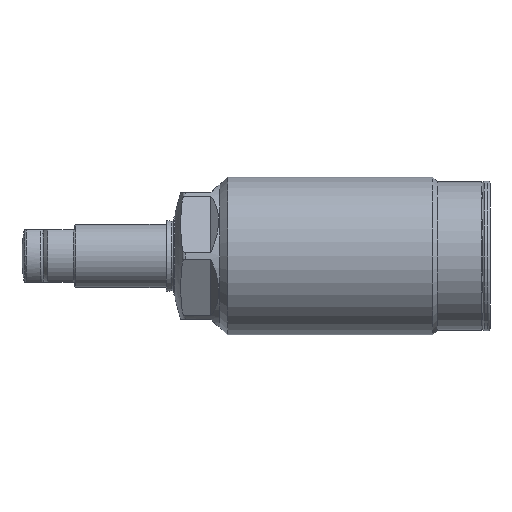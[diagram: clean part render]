
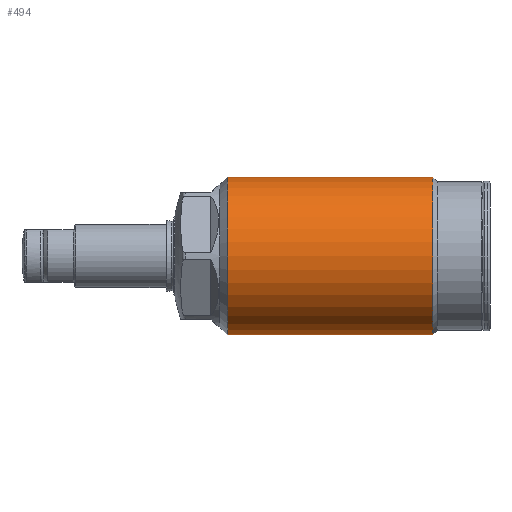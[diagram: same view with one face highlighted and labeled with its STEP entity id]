
A CAD part, left-side view. The second image highlights one B-rep face of the part: STEP entity #494.
In plain terms, the highlighted cylindrical face has radius 15 mm (diameter 30 mm), a partial arc.
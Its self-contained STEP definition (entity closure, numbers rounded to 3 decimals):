
#494=ADVANCED_FACE('',(#694),#570,.T.);
#570=CYLINDRICAL_SURFACE('',#2992,15.);
#694=FACE_OUTER_BOUND('',#869,.T.);
#869=EDGE_LOOP('',(#1660,#1661,#1662,#1663));
#979=LINE('',#4641,#1074);
#980=LINE('',#4645,#1075);
#1074=VECTOR('',#3604,1.);
#1075=VECTOR('',#3607,1.);
#1660=ORIENTED_EDGE('',*,*,#2302,.T.);
#1661=ORIENTED_EDGE('',*,*,#2381,.T.);
#1662=ORIENTED_EDGE('',*,*,#2304,.F.);
#1663=ORIENTED_EDGE('',*,*,#2380,.F.);
#2002=VERTEX_POINT('',#4636);
#2003=VERTEX_POINT('',#4638);
#2004=VERTEX_POINT('',#4642);
#2005=VERTEX_POINT('',#4644);
#2302=EDGE_CURVE('',#2004,#2002,#979,.T.);
#2304=EDGE_CURVE('',#2005,#2003,#980,.T.);
#2380=EDGE_CURVE('',#2004,#2005,#2633,.T.);
#2381=EDGE_CURVE('',#2002,#2003,#2634,.T.);
#2633=CIRCLE('',#2989,15.);
#2634=CIRCLE('',#2991,15.);
#2989=AXIS2_PLACEMENT_3D('',#4955,#3796,#3797);
#2991=AXIS2_PLACEMENT_3D('',#4957,#3800,#3801);
#2992=AXIS2_PLACEMENT_3D('',#4958,#3802,#3803);
#3604=DIRECTION('',(0.,1.,0.));
#3607=DIRECTION('',(0.,1.,0.));
#3796=DIRECTION('',(0.,-1.,0.));
#3797=DIRECTION('',(0.,0.,-1.));
#3800=DIRECTION('',(0.,-1.,0.));
#3801=DIRECTION('',(0.,0.,-1.));
#3802=DIRECTION('',(0.,-1.,0.));
#3803=DIRECTION('',(0.,0.,-1.));
#4636=CARTESIAN_POINT('',(0.,53.233,15.));
#4638=CARTESIAN_POINT('',(0.,53.233,-15.));
#4641=CARTESIAN_POINT('',(0.,0.,15.));
#4642=CARTESIAN_POINT('',(0.,14.233,15.));
#4644=CARTESIAN_POINT('',(0.,14.233,-15.));
#4645=CARTESIAN_POINT('',(0.,0.,-15.));
#4955=CARTESIAN_POINT('',(0.,14.233,0.));
#4957=CARTESIAN_POINT('',(0.,53.233,0.));
#4958=CARTESIAN_POINT('',(0.,0.,0.));
